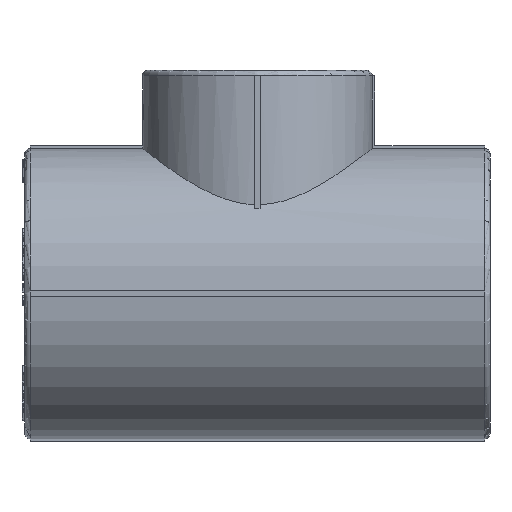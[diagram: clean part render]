
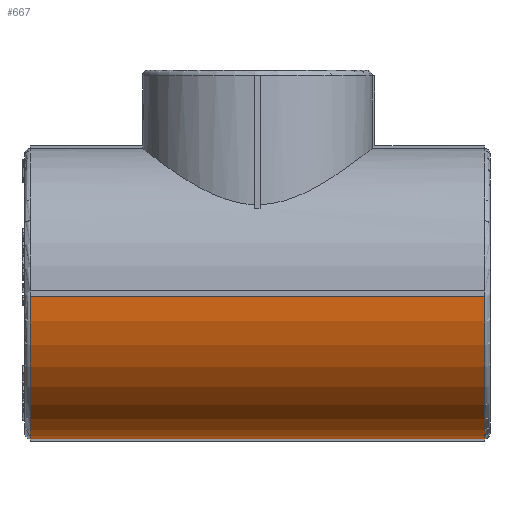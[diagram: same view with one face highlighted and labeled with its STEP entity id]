
A CAD part, left-side view. The second image highlights one B-rep face of the part: STEP entity #667.
In plain terms, the highlighted cylindrical face has radius 27 mm (diameter 54 mm), a partial arc.
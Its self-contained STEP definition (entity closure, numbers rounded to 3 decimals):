
#667=ADVANCED_FACE('',(#5178),#5180,.T.);
#5178=FACE_BOUND('',#5179,.T.);
#5179=EDGE_LOOP('',(#13144,#13145,#13146,#13147));
#5180=CYLINDRICAL_SURFACE('',#5181,27.);
#5181=AXIS2_PLACEMENT_3D('',#5182,#5183,#5184);
#5182=CARTESIAN_POINT('',(0.,-43.25,0.));
#5183=DIRECTION('',(0.,1.,0.));
#5184=DIRECTION('',(-1.,0.,0.));
#13144=ORIENTED_EDGE('',*,*,#18602,.F.);
#13145=ORIENTED_EDGE('',*,*,#18603,.T.);
#13146=ORIENTED_EDGE('',*,*,#18604,.F.);
#13147=ORIENTED_EDGE('',*,*,#18564,.F.);
#18564=EDGE_CURVE('',#22862,#22864,#22865,.T.);
#18602=EDGE_CURVE('',#22932,#22862,#22933,.T.);
#18603=EDGE_CURVE('',#22932,#22934,#22935,.T.);
#18604=EDGE_CURVE('',#22864,#22934,#22936,.F.);
#22862=VERTEX_POINT('',#31553);
#22864=VERTEX_POINT('',#31558);
#22865=CIRCLE('',#31559,27.);
#22932=VERTEX_POINT('',#31976);
#22933=LINE('',#31977,#31978);
#22934=VERTEX_POINT('',#31980);
#22935=CIRCLE('',#31981,27.);
#22936=LINE('',#31985,#31986);
#31553=CARTESIAN_POINT('',(-0.5,42.25,-26.995));
#31558=CARTESIAN_POINT('',(-26.995,42.25,-0.5));
#31559=AXIS2_PLACEMENT_3D('',#31560,#31561,#31562);
#31560=CARTESIAN_POINT('',(0.,42.25,0.));
#31561=DIRECTION('',(0.,1.,0.));
#31562=DIRECTION('',(-0.019,0.,-1.));
#31976=CARTESIAN_POINT('',(-0.5,-42.25,-26.995));
#31977=CARTESIAN_POINT('',(-0.5,-42.25,-26.995));
#31978=VECTOR('',#31979,1.);
#31979=DIRECTION('',(0.,1.,0.));
#31980=CARTESIAN_POINT('',(-26.995,-42.25,-0.5));
#31981=AXIS2_PLACEMENT_3D('',#31982,#31983,#31984);
#31982=CARTESIAN_POINT('',(0.,-42.25,0.));
#31983=DIRECTION('',(0.,1.,0.));
#31984=DIRECTION('',(-0.019,0.,-1.));
#31985=CARTESIAN_POINT('',(-26.995,-42.25,-0.5));
#31986=VECTOR('',#31987,1.);
#31987=DIRECTION('',(0.,1.,0.));
